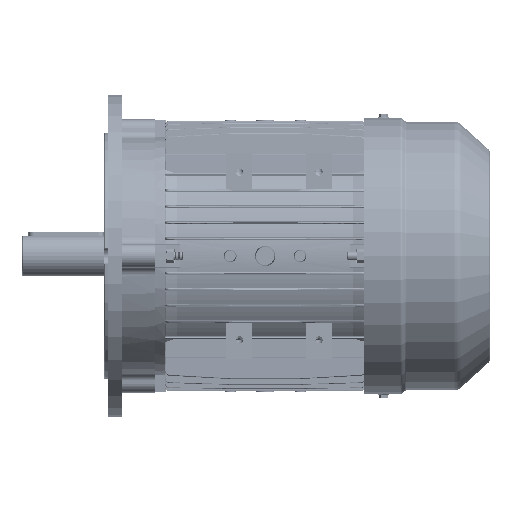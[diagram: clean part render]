
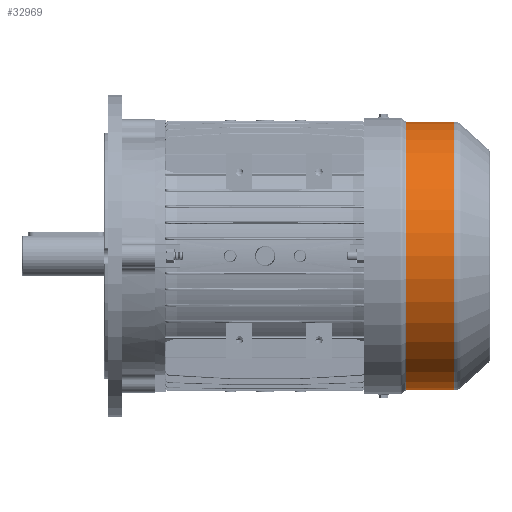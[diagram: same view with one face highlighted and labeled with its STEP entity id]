
A CAD part, front view. The second image highlights one B-rep face of the part: STEP entity #32969.
In plain terms, the highlighted cylindrical face has radius 125 mm (diameter 250 mm), a partial arc.
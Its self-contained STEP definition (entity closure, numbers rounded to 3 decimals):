
#1020 = DIRECTION ( 'NONE',  ( 0., 0., 1. ) ) ;
#1145 = AXIS2_PLACEMENT_3D ( 'NONE', #23142, #142771, #92628 ) ;
#6359 = AXIS2_PLACEMENT_3D ( 'NONE', #37881, #74244, #1020 ) ;
#8144 = VECTOR ( 'NONE', #42964, 1000. ) ;
#12001 = CARTESIAN_POINT ( 'NONE',  ( -83.139, 0., -125. ) ) ;
#13352 = DIRECTION ( 'NONE',  ( 0., 0., -1. ) ) ;
#15213 = EDGE_LOOP ( 'NONE', ( #69098, #113802, #154621, #57091 ) ) ;
#17761 = LINE ( 'NONE', #30697, #8144 ) ;
#20001 = CARTESIAN_POINT ( 'NONE',  ( -39.028, 0., -125. ) ) ;
#20101 = VECTOR ( 'NONE', #106978, 1000. ) ;
#23142 = CARTESIAN_POINT ( 'NONE',  ( -39.028, 0., 0. ) ) ;
#30697 = CARTESIAN_POINT ( 'NONE',  ( -114., 0., -125. ) ) ;
#32969 = ADVANCED_FACE ( 'NONE', ( #98243 ), #103899, .T. ) ;
#35785 = CIRCLE ( 'NONE', #80629, 125. ) ;
#37881 = CARTESIAN_POINT ( 'NONE',  ( -114., 0., 0. ) ) ;
#42964 = DIRECTION ( 'NONE',  ( -1., 0., 0. ) ) ;
#48763 = LINE ( 'NONE', #57806, #20101 ) ;
#49782 = CARTESIAN_POINT ( 'NONE',  ( -39.028, 0., 125. ) ) ;
#53167 = VERTEX_POINT ( 'NONE', #12001 ) ;
#53849 = EDGE_CURVE ( 'NONE', #133070, #53167, #17761, .T. ) ;
#57091 = ORIENTED_EDGE ( 'NONE', *, *, #157089, .T. ) ;
#57806 = CARTESIAN_POINT ( 'NONE',  ( -114., 0., 125. ) ) ;
#62984 = CIRCLE ( 'NONE', #1145, 125. ) ;
#69098 = ORIENTED_EDGE ( 'NONE', *, *, #53849, .F. ) ;
#74244 = DIRECTION ( 'NONE',  ( -1., 0., 0. ) ) ;
#75386 = DIRECTION ( 'NONE',  ( 1., 0., 0. ) ) ;
#80629 = AXIS2_PLACEMENT_3D ( 'NONE', #86723, #75386, #13352 ) ;
#82557 = CARTESIAN_POINT ( 'NONE',  ( -83.139, 0., 125. ) ) ;
#86723 = CARTESIAN_POINT ( 'NONE',  ( -83.139, 0., 0. ) ) ;
#92628 = DIRECTION ( 'NONE',  ( 0., 0., 1. ) ) ;
#98243 = FACE_OUTER_BOUND ( 'NONE', #15213, .T. ) ;
#103899 = CYLINDRICAL_SURFACE ( 'NONE', #6359, 125. ) ;
#106978 = DIRECTION ( 'NONE',  ( -1., 0., 0. ) ) ;
#113802 = ORIENTED_EDGE ( 'NONE', *, *, #118303, .T. ) ;
#118303 = EDGE_CURVE ( 'NONE', #133070, #149700, #62984, .T. ) ;
#122349 = EDGE_CURVE ( 'NONE', #149700, #149835, #48763, .T. ) ;
#133070 = VERTEX_POINT ( 'NONE', #20001 ) ;
#142771 = DIRECTION ( 'NONE',  ( -1., 0., 0. ) ) ;
#149700 = VERTEX_POINT ( 'NONE', #49782 ) ;
#149835 = VERTEX_POINT ( 'NONE', #82557 ) ;
#154621 = ORIENTED_EDGE ( 'NONE', *, *, #122349, .T. ) ;
#157089 = EDGE_CURVE ( 'NONE', #149835, #53167, #35785, .T. ) ;
